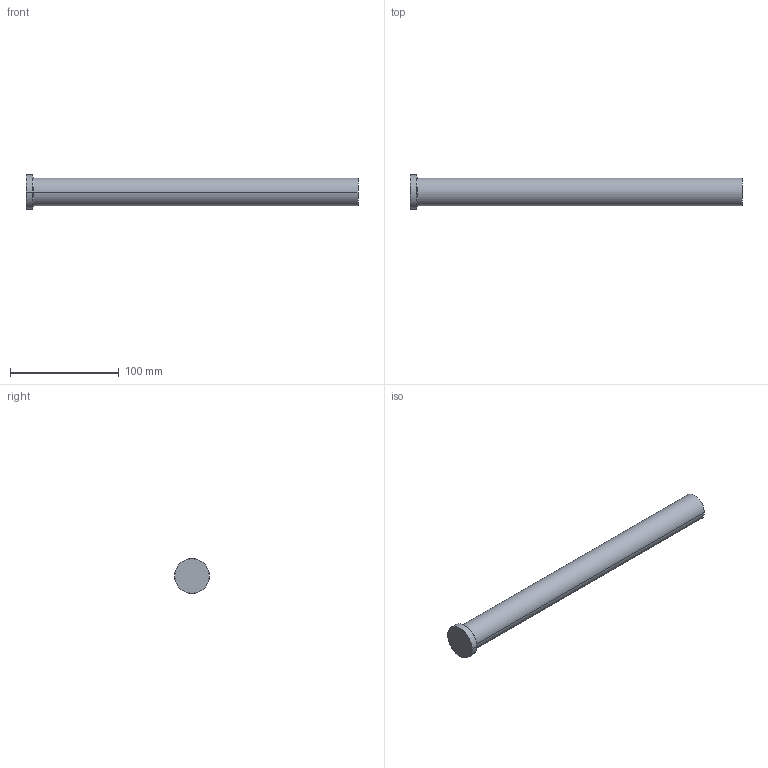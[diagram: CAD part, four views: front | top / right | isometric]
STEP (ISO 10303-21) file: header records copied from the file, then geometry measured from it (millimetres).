
FILE_DESCRIPTION (( 'STEP AP214' ), '1' );
FILE_NAME ('P47-12.STEP', '2020-03-12T12:26:58', ( '' ), ( '' ), 'SwSTEP 2.0', 'SolidWorks 2018', '' );
FILE_SCHEMA (( 'AUTOMOTIVE_DESIGN' ));
Length unit declared in the file: inch
Products named in the file (1): P47-12
Bounding box: 304.8 x 31.75 x 31.75 mm (x, y, z)
Volume: 156112.2 mm3; surface area: 25982.5 mm2
Topology: 1 solids, 1 shells, 13 faces, 24 edges, 14 vertices
Faces by surface type: cone 4, cylinder 4, plane 3, torus 2
Entity records: 366 total; most frequent: DIRECTION 68, CARTESIAN_POINT 52, ORIENTED_EDGE 48, AXIS2_PLACEMENT_3D 30, EDGE_CURVE 24, CIRCLE 16, EDGE_LOOP 14, VERTEX_POINT 14
